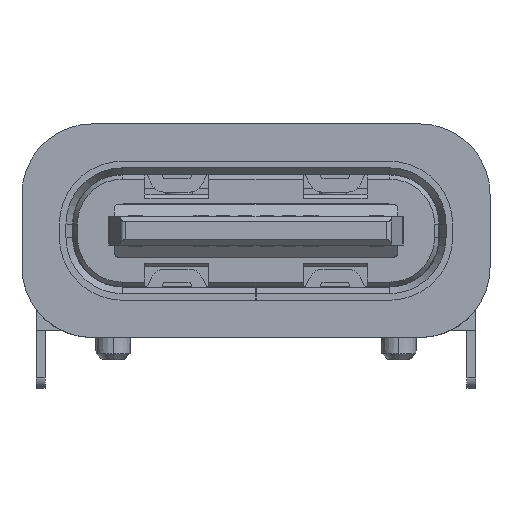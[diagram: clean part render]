
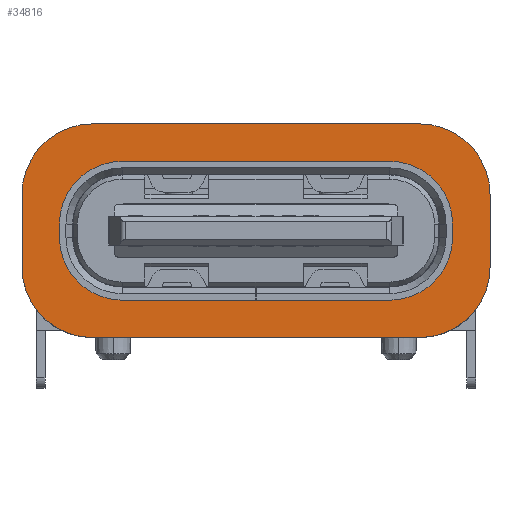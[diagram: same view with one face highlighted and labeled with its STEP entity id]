
A CAD part, front view. The second image highlights one B-rep face of the part: STEP entity #34816.
In plain terms, the highlighted planar face has unit normal (0, -1, 0).
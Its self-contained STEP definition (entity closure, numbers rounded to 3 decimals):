
#72 = VERTEX_POINT ( 'NONE', #7612 ) ;
#93 = DIRECTION ( 'NONE',  ( 0., -1., 0. ) ) ;
#166 = DIRECTION ( 'NONE',  ( 0., 1., 0. ) ) ;
#441 = DIRECTION ( 'NONE',  ( 0., 0., 1. ) ) ;
#577 = VERTEX_POINT ( 'NONE', #19172 ) ;
#625 = DIRECTION ( 'NONE',  ( 1., 0., 0. ) ) ;
#850 = CIRCLE ( 'NONE', #10297, 1.6 ) ;
#1011 = DIRECTION ( 'NONE',  ( -1., 0., 0. ) ) ;
#1428 = CARTESIAN_POINT ( 'NONE',  ( -3.72, -0.3, 0.15 ) ) ;
#1449 = DIRECTION ( 'NONE',  ( -1., 0., 0. ) ) ;
#1608 = DIRECTION ( 'NONE',  ( 1., 0., 0. ) ) ;
#1612 = VECTOR ( 'NONE', #15963, 1000. ) ;
#1769 = AXIS2_PLACEMENT_3D ( 'NONE', #30954, #10827, #14139 ) ;
#2141 = LINE ( 'NONE', #16723, #34341 ) ;
#2751 = VERTEX_POINT ( 'NONE', #22077 ) ;
#2983 = ORIENTED_EDGE ( 'NONE', *, *, #4997, .T. ) ;
#3813 = VERTEX_POINT ( 'NONE', #30059 ) ;
#4704 = CARTESIAN_POINT ( 'NONE',  ( -3.04, -0.3, 4.16 ) ) ;
#4723 = CARTESIAN_POINT ( 'NONE',  ( -5.32, -0.3, 1.75 ) ) ;
#4875 = CARTESIAN_POINT ( 'NONE',  ( -3.72, -0.3, 5.01 ) ) ;
#4997 = EDGE_CURVE ( 'NONE', #577, #35372, #27102, .T. ) ;
#5603 = DIRECTION ( 'NONE',  ( 0., 0., -1. ) ) ;
#5619 = CARTESIAN_POINT ( 'NONE',  ( -3.72, -0.3, 3.41 ) ) ;
#6223 = CARTESIAN_POINT ( 'NONE',  ( 5.32, -0.3, 3.41 ) ) ;
#6282 = VECTOR ( 'NONE', #7255, 1000. ) ;
#6303 = VERTEX_POINT ( 'NONE', #28422 ) ;
#6532 = AXIS2_PLACEMENT_3D ( 'NONE', #7578, #27348, #10344 ) ;
#6762 = ORIENTED_EDGE ( 'NONE', *, *, #19691, .T. ) ;
#7111 = LINE ( 'NONE', #4704, #1612 ) ;
#7156 = FACE_BOUND ( 'NONE', #21964, .T. ) ;
#7255 = DIRECTION ( 'NONE',  ( -1., 0., 0. ) ) ;
#7578 = CARTESIAN_POINT ( 'NONE',  ( 3.04, -0.3, 2.73 ) ) ;
#7612 = CARTESIAN_POINT ( 'NONE',  ( -5.32, -0.3, 3.41 ) ) ;
#7720 = CIRCLE ( 'NONE', #6532, 1.43 ) ;
#8770 = AXIS2_PLACEMENT_3D ( 'NONE', #22616, #16340, #25023 ) ;
#9338 = VERTEX_POINT ( 'NONE', #6223 ) ;
#9864 = VECTOR ( 'NONE', #1011, 1000. ) ;
#9997 = DIRECTION ( 'NONE',  ( 0., -1., 0. ) ) ;
#10297 = AXIS2_PLACEMENT_3D ( 'NONE', #18677, #13150, #24414 ) ;
#10344 = DIRECTION ( 'NONE',  ( 0., 0., 1. ) ) ;
#10469 = DIRECTION ( 'NONE',  ( 0., 0., -1. ) ) ;
#10629 = EDGE_CURVE ( 'NONE', #35372, #21798, #30671, .T. ) ;
#10827 = DIRECTION ( 'NONE',  ( 0., -1., 0. ) ) ;
#10950 = LINE ( 'NONE', #22402, #21259 ) ;
#11139 = VECTOR ( 'NONE', #19975, 1000. ) ;
#11192 = CARTESIAN_POINT ( 'NONE',  ( 4.47, -0.3, 2.73 ) ) ;
#11443 = CARTESIAN_POINT ( 'NONE',  ( 5.32, -0.3, 1.75 ) ) ;
#11517 = CARTESIAN_POINT ( 'NONE',  ( -5.32, -0.3, 3.41 ) ) ;
#12540 = ORIENTED_EDGE ( 'NONE', *, *, #33738, .T. ) ;
#12702 = VERTEX_POINT ( 'NONE', #20254 ) ;
#12970 = EDGE_CURVE ( 'NONE', #24595, #12702, #2141, .T. ) ;
#13088 = AXIS2_PLACEMENT_3D ( 'NONE', #26802, #9997, #625 ) ;
#13150 = DIRECTION ( 'NONE',  ( 0., -1., 0. ) ) ;
#13300 = EDGE_CURVE ( 'NONE', #21798, #9338, #10950, .T. ) ;
#13417 = FACE_OUTER_BOUND ( 'NONE', #33851, .T. ) ;
#14139 = DIRECTION ( 'NONE',  ( 0., 0., -1. ) ) ;
#14169 = ORIENTED_EDGE ( 'NONE', *, *, #12970, .T. ) ;
#14392 = VERTEX_POINT ( 'NONE', #4875 ) ;
#14545 = ORIENTED_EDGE ( 'NONE', *, *, #30678, .T. ) ;
#15164 = LINE ( 'NONE', #34229, #11139 ) ;
#15562 = LINE ( 'NONE', #32577, #6282 ) ;
#15703 = AXIS2_PLACEMENT_3D ( 'NONE', #30420, #35792, #10469 ) ;
#15963 = DIRECTION ( 'NONE',  ( 1., 0., 0. ) ) ;
#16340 = DIRECTION ( 'NONE',  ( 0., 1., 0. ) ) ;
#16723 = CARTESIAN_POINT ( 'NONE',  ( 4.47, -0.3, 2.73 ) ) ;
#17024 = EDGE_CURVE ( 'NONE', #17180, #27570, #29418, .T. ) ;
#17180 = VERTEX_POINT ( 'NONE', #29073 ) ;
#17394 = CARTESIAN_POINT ( 'NONE',  ( 3.04, -0.3, 1. ) ) ;
#17442 = CIRCLE ( 'NONE', #29829, 1.43 ) ;
#17842 = ORIENTED_EDGE ( 'NONE', *, *, #29496, .T. ) ;
#17926 = ORIENTED_EDGE ( 'NONE', *, *, #18641, .T. ) ;
#18641 = EDGE_CURVE ( 'NONE', #27570, #26667, #15164, .T. ) ;
#18677 = CARTESIAN_POINT ( 'NONE',  ( -3.72, -0.3, 1.75 ) ) ;
#19172 = CARTESIAN_POINT ( 'NONE',  ( -3.72, -0.3, 0.15 ) ) ;
#19522 = ORIENTED_EDGE ( 'NONE', *, *, #10629, .T. ) ;
#19691 = EDGE_CURVE ( 'NONE', #72, #22483, #31647, .T. ) ;
#19975 = DIRECTION ( 'NONE',  ( 0., 0., 1. ) ) ;
#20236 = ORIENTED_EDGE ( 'NONE', *, *, #13300, .T. ) ;
#20254 = CARTESIAN_POINT ( 'NONE',  ( 4.47, -0.3, 2.43 ) ) ;
#21040 = EDGE_CURVE ( 'NONE', #26140, #17180, #15562, .T. ) ;
#21208 = ORIENTED_EDGE ( 'NONE', *, *, #22611, .T. ) ;
#21259 = VECTOR ( 'NONE', #28496, 1000. ) ;
#21548 = EDGE_CURVE ( 'NONE', #2751, #24595, #7720, .T. ) ;
#21798 = VERTEX_POINT ( 'NONE', #11443 ) ;
#21915 = PLANE ( 'NONE',  #15703 ) ;
#21964 = EDGE_LOOP ( 'NONE', ( #17842, #35592, #33679, #17926, #12540, #27375, #35212, #14169 ) ) ;
#22077 = CARTESIAN_POINT ( 'NONE',  ( 3.04, -0.3, 4.16 ) ) ;
#22402 = CARTESIAN_POINT ( 'NONE',  ( 5.32, -0.3, 1.75 ) ) ;
#22483 = VERTEX_POINT ( 'NONE', #4723 ) ;
#22611 = EDGE_CURVE ( 'NONE', #14392, #72, #34915, .T. ) ;
#22616 = CARTESIAN_POINT ( 'NONE',  ( -3.04, -0.3, 2.43 ) ) ;
#22759 = EDGE_CURVE ( 'NONE', #9338, #3813, #35496, .T. ) ;
#23971 = CARTESIAN_POINT ( 'NONE',  ( -3.04, -0.3, 2.73 ) ) ;
#24414 = DIRECTION ( 'NONE',  ( -1., 0., 0. ) ) ;
#24595 = VERTEX_POINT ( 'NONE', #11192 ) ;
#25023 = DIRECTION ( 'NONE',  ( 0., 0., -1. ) ) ;
#26140 = VERTEX_POINT ( 'NONE', #17394 ) ;
#26152 = LINE ( 'NONE', #31512, #9864 ) ;
#26578 = DIRECTION ( 'NONE',  ( 0., 1., 0. ) ) ;
#26667 = VERTEX_POINT ( 'NONE', #34964 ) ;
#26756 = CIRCLE ( 'NONE', #35022, 1.43 ) ;
#26802 = CARTESIAN_POINT ( 'NONE',  ( 3.72, -0.3, 3.41 ) ) ;
#27102 = LINE ( 'NONE', #1428, #35846 ) ;
#27348 = DIRECTION ( 'NONE',  ( 0., 1., 0. ) ) ;
#27375 = ORIENTED_EDGE ( 'NONE', *, *, #35242, .T. ) ;
#27570 = VERTEX_POINT ( 'NONE', #27960 ) ;
#27701 = VECTOR ( 'NONE', #5603, 1000. ) ;
#27960 = CARTESIAN_POINT ( 'NONE',  ( -4.47, -0.3, 2.43 ) ) ;
#28338 = ORIENTED_EDGE ( 'NONE', *, *, #22759, .T. ) ;
#28422 = CARTESIAN_POINT ( 'NONE',  ( -3.04, -0.3, 4.16 ) ) ;
#28496 = DIRECTION ( 'NONE',  ( 0., 0., 1. ) ) ;
#28507 = ORIENTED_EDGE ( 'NONE', *, *, #35065, .T. ) ;
#29073 = CARTESIAN_POINT ( 'NONE',  ( -3.04, -0.3, 1. ) ) ;
#29418 = CIRCLE ( 'NONE', #8770, 1.43 ) ;
#29496 = EDGE_CURVE ( 'NONE', #12702, #26140, #26756, .T. ) ;
#29829 = AXIS2_PLACEMENT_3D ( 'NONE', #23971, #26578, #1449 ) ;
#30059 = CARTESIAN_POINT ( 'NONE',  ( 3.72, -0.3, 5.01 ) ) ;
#30408 = DIRECTION ( 'NONE',  ( 0., 0., -1. ) ) ;
#30420 = CARTESIAN_POINT ( 'NONE',  ( 0., -0.3, 0. ) ) ;
#30671 = CIRCLE ( 'NONE', #1769, 1.6 ) ;
#30678 = EDGE_CURVE ( 'NONE', #22483, #577, #850, .T. ) ;
#30954 = CARTESIAN_POINT ( 'NONE',  ( 3.72, -0.3, 1.75 ) ) ;
#31382 = CARTESIAN_POINT ( 'NONE',  ( 3.04, -0.3, 2.43 ) ) ;
#31512 = CARTESIAN_POINT ( 'NONE',  ( 3.72, -0.3, 5.01 ) ) ;
#31647 = LINE ( 'NONE', #11517, #27701 ) ;
#31961 = AXIS2_PLACEMENT_3D ( 'NONE', #5619, #93, #441 ) ;
#32525 = CARTESIAN_POINT ( 'NONE',  ( 3.72, -0.3, 0.15 ) ) ;
#32577 = CARTESIAN_POINT ( 'NONE',  ( 3.04, -0.3, 1. ) ) ;
#33679 = ORIENTED_EDGE ( 'NONE', *, *, #17024, .T. ) ;
#33738 = EDGE_CURVE ( 'NONE', #26667, #6303, #17442, .T. ) ;
#33801 = DIRECTION ( 'NONE',  ( 1., 0., 0. ) ) ;
#33851 = EDGE_LOOP ( 'NONE', ( #28507, #21208, #6762, #14545, #2983, #19522, #20236, #28338 ) ) ;
#34229 = CARTESIAN_POINT ( 'NONE',  ( -4.47, -0.3, 2.43 ) ) ;
#34341 = VECTOR ( 'NONE', #30408, 1000. ) ;
#34816 = ADVANCED_FACE ( 'NONE', ( #13417, #7156 ), #21915, .T. ) ;
#34915 = CIRCLE ( 'NONE', #31961, 1.6 ) ;
#34964 = CARTESIAN_POINT ( 'NONE',  ( -4.47, -0.3, 2.73 ) ) ;
#35022 = AXIS2_PLACEMENT_3D ( 'NONE', #31382, #166, #33801 ) ;
#35065 = EDGE_CURVE ( 'NONE', #3813, #14392, #26152, .T. ) ;
#35212 = ORIENTED_EDGE ( 'NONE', *, *, #21548, .T. ) ;
#35242 = EDGE_CURVE ( 'NONE', #6303, #2751, #7111, .T. ) ;
#35372 = VERTEX_POINT ( 'NONE', #32525 ) ;
#35496 = CIRCLE ( 'NONE', #13088, 1.6 ) ;
#35592 = ORIENTED_EDGE ( 'NONE', *, *, #21040, .T. ) ;
#35792 = DIRECTION ( 'NONE',  ( 0., -1., 0. ) ) ;
#35846 = VECTOR ( 'NONE', #1608, 1000. ) ;
